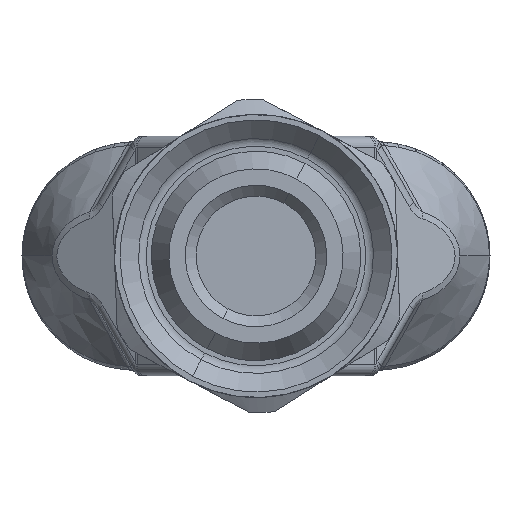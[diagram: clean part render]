
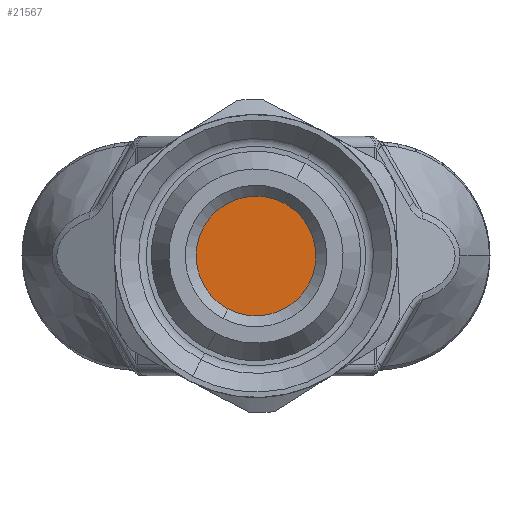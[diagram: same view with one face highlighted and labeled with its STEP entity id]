
A CAD part, front view. The second image highlights one B-rep face of the part: STEP entity #21567.
In plain terms, the highlighted planar face has unit normal (0, -1, 0).
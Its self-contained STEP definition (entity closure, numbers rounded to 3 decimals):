
#238 = DIRECTION ( 'NONE',  ( 1., 0., 0. ) ) ;
#716 = DIRECTION ( 'NONE',  ( -0.467, 0., -0.884 ) ) ;
#1023 = VERTEX_POINT ( 'NONE', #2425 ) ;
#1670 = CARTESIAN_POINT ( 'NONE',  ( -3.633, 28.579, -2.431 ) ) ;
#2425 = CARTESIAN_POINT ( 'NONE',  ( -1.063, 28.579, 2.431 ) ) ;
#4040 = AXIS2_PLACEMENT_3D ( 'NONE', #22336, #11506, #716 ) ;
#4411 = VERTEX_POINT ( 'NONE', #1670 ) ;
#6712 = EDGE_CURVE ( 'NONE', #4411, #1023, #16691, .T. ) ;
#8065 = EDGE_CURVE ( 'NONE', #1023, #4411, #15534, .T. ) ;
#9236 = PLANE ( 'NONE',  #22621 ) ;
#9506 = DIRECTION ( 'NONE',  ( 0., -1., 0. ) ) ;
#10322 = CARTESIAN_POINT ( 'NONE',  ( -2.348, 28.579, 0. ) ) ;
#11037 = DIRECTION ( 'NONE',  ( 0., -1., 0. ) ) ;
#11039 = FACE_OUTER_BOUND ( 'NONE', #13497, .T. ) ;
#11506 = DIRECTION ( 'NONE',  ( 0., -1., 0. ) ) ;
#13497 = EDGE_LOOP ( 'NONE', ( #23122, #21250 ) ) ;
#15534 = CIRCLE ( 'NONE', #20606, 2.75 ) ;
#16691 = CIRCLE ( 'NONE', #4040, 2.75 ) ;
#20275 = CARTESIAN_POINT ( 'NONE',  ( -2.348, 28.579, 0. ) ) ;
#20606 = AXIS2_PLACEMENT_3D ( 'NONE', #20275, #9506, #22115 ) ;
#21250 = ORIENTED_EDGE ( 'NONE', *, *, #8065, .T. ) ;
#21567 = ADVANCED_FACE ( 'NONE', ( #11039 ), #9236, .T. ) ;
#22115 = DIRECTION ( 'NONE',  ( -0.467, 0., -0.884 ) ) ;
#22336 = CARTESIAN_POINT ( 'NONE',  ( -2.348, 28.579, 0. ) ) ;
#22621 = AXIS2_PLACEMENT_3D ( 'NONE', #10322, #11037, #238 ) ;
#23122 = ORIENTED_EDGE ( 'NONE', *, *, #6712, .T. ) ;
